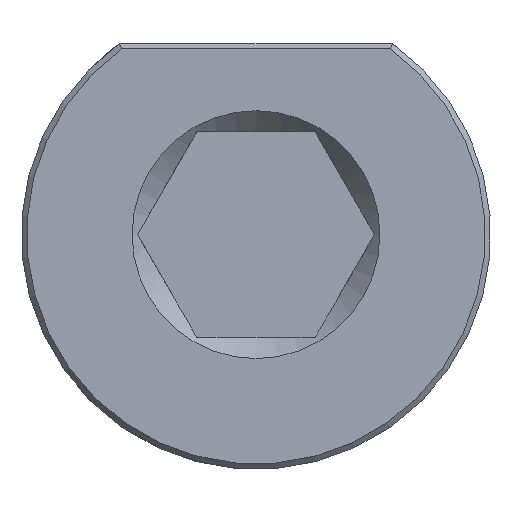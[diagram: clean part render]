
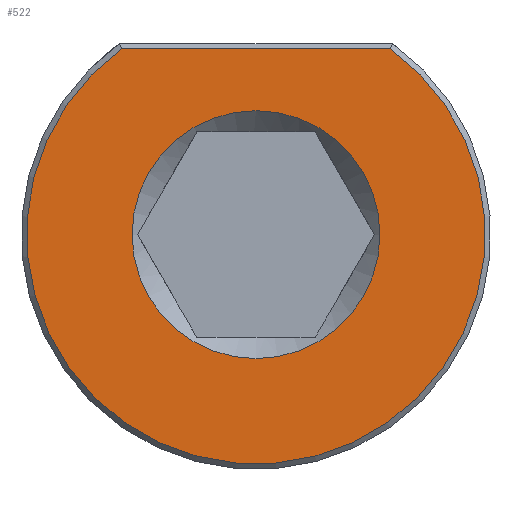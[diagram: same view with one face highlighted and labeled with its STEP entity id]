
A CAD part, front view. The second image highlights one B-rep face of the part: STEP entity #522.
In plain terms, the highlighted planar face has unit normal (0, -1, 0).
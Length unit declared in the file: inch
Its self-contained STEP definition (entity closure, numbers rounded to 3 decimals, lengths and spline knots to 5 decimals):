
#26=FACE_BOUND('',#156,.T.);
#39=LINE('',#805,#72);
#72=VECTOR('',#640,0.3937);
#105=PLANE('',#572);
#123=FACE_OUTER_BOUND('',#155,.T.);
#155=EDGE_LOOP('',(#372,#373));
#156=EDGE_LOOP('',(#374));
#199=CIRCLE('',#567,0.42);
#202=CIRCLE('',#573,0.227);
#227=VERTEX_POINT('',#789);
#228=VERTEX_POINT('',#790);
#238=VERTEX_POINT('',#834);
#278=EDGE_CURVE('',#227,#228,#199,.T.);
#283=EDGE_CURVE('',#228,#227,#39,.T.);
#292=EDGE_CURVE('',#238,#238,#202,.T.);
#372=ORIENTED_EDGE('',*,*,#278,.F.);
#373=ORIENTED_EDGE('',*,*,#283,.F.);
#374=ORIENTED_EDGE('',*,*,#292,.F.);
#522=ADVANCED_FACE('',(#123,#26),#105,.T.);
#567=AXIS2_PLACEMENT_3D('',#791,#633,#634);
#572=AXIS2_PLACEMENT_3D('',#833,#649,#650);
#573=AXIS2_PLACEMENT_3D('',#835,#651,#652);
#633=DIRECTION('center_axis',(0.,1.,0.));
#634=DIRECTION('ref_axis',(0.,0.,-1.));
#640=DIRECTION('',(1.,0.,0.));
#649=DIRECTION('center_axis',(0.,-1.,0.));
#650=DIRECTION('ref_axis',(0.,0.,-1.));
#651=DIRECTION('center_axis',(0.,-1.,0.));
#652=DIRECTION('ref_axis',(0.,0.,1.));
#789=CARTESIAN_POINT('',(0.24658,0.,0.34));
#790=CARTESIAN_POINT('',(-0.24658,0.,0.34));
#791=CARTESIAN_POINT('Origin',(0.,0.,0.));
#805=CARTESIAN_POINT('',(0.20968,0.,0.34));
#833=CARTESIAN_POINT('Origin',(0.,0.,-0.187));
#834=CARTESIAN_POINT('',(0.,0.,-0.227));
#835=CARTESIAN_POINT('Origin',(0.,0.,0.));
